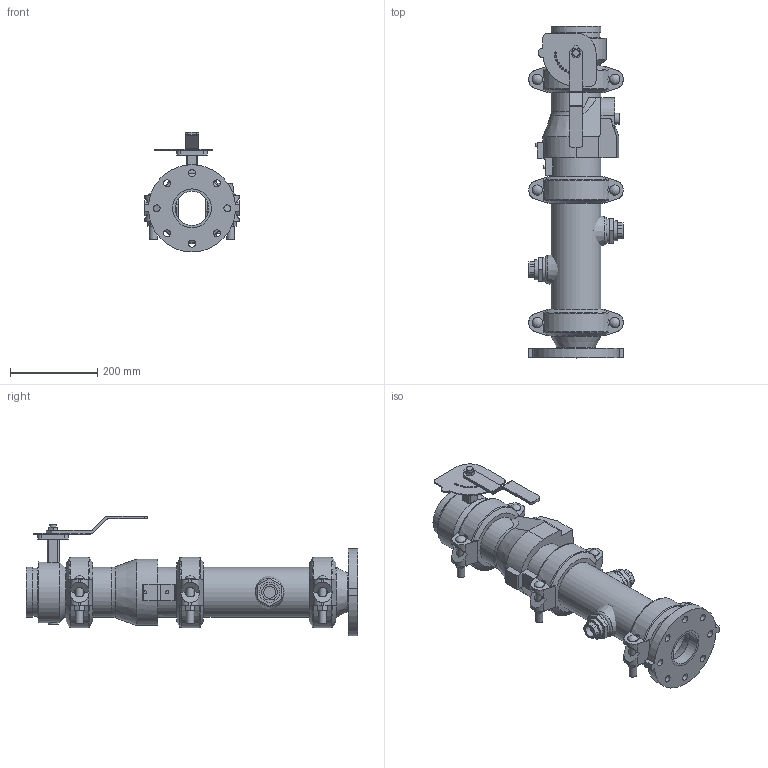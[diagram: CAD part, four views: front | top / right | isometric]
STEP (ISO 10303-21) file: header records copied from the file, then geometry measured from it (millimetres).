
FILE_DESCRIPTION(/* description */ ('VIC DVI PUMP DROP VERT S/390 (OGSxFLG)','CAx-IF Rec.Pracs.---Representation and Presentation of Product Manufacturing Information (PMI)---4.0---2014-10-13'),/* implementation_level */ '2;1');
FILE_NAME(/* name */ 'C:\Users\Vjadhav\AppData\Roaming\Autodesk\ApplicationPlugins\Back Up\Victaulic_IPS_Vertical DVI_PN10_Series 390 (OGSxFLG)\Victaulic_IPS_Vertical DVI_PN10_Series 390 (OGSxFLG)_04.0x03.0 (100x80).stp',/* time_stamp */ '2020-11-09T17:50:13+05:00',/* author */ ('Vjadhav'),/* organization */ ('Victaulic'),/* preprocessor_version */ 'ST-DEVELOPER v17.2',/* originating_system */ 'Autodesk Inventor 2019',/* authorisation */ '');
FILE_SCHEMA (('AP242_MANAGED_MODEL_BASED_3D_ENGINEERING_MIM_LF { 1 0 10303 442 1 1 4 }'));
Length unit declared in the file: inch
Products named in the file (8): 390-04.0x03.0; 741-03.0; 050-04.0x03.0; Pipe-04.0; 177N-04.0; 761-04.0; 716-04.0; 923-04.0x0.75
Assembly tree (10 placements, depth 2):
  390-04.0x03.0
    741-03.0
    050-04.0x03.0
    177N-04.0  x3
    Pipe-04.0
    761-04.0
    716-04.0
    923-04.0x0.75  x2
Bounding box: 219.2 x 762 x 275.08 mm (x, y, z)
Volume: 5944231.2 mm3; surface area: 1070742.2 mm2
Topology: 10 solids, 11 shells, 608 faces, 1631 edges, 1083 vertices
Faces by surface type: plane 355, cylinder 208, cone 20, torus 17, sphere 6, bspline 2
Full cylindrical faces by diameter (mm): 4.826 x10, 7.62 x2, 8.636 x4, 14.986 x2, 16.002 x8, 17.424 x6, 22.86 x1, 23.495 x6, 25.4 x1, 26.67 x2, 45.974 x4, 55.118 x1, 55.626 x2, 77.927 x1, 84.938 x1, 88.9 x3, 101.6 x3, 102.26 x3, 103.988 x1, 110.084 x7, 114.3 x19, 139.7 x1
Entity records: 12498 total; most frequent: CARTESIAN_POINT 2347, DIRECTION 2088, ORIENTED_EDGE 1918, EDGE_CURVE 959, AXIS2_PLACEMENT_3D 787, VERTEX_POINT 643, LINE 514, VECTOR 514
